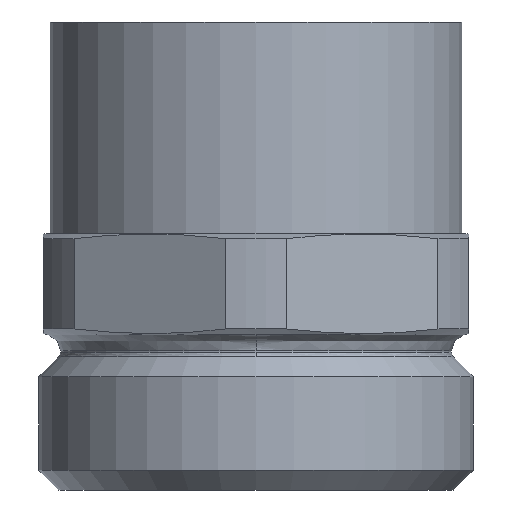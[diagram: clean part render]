
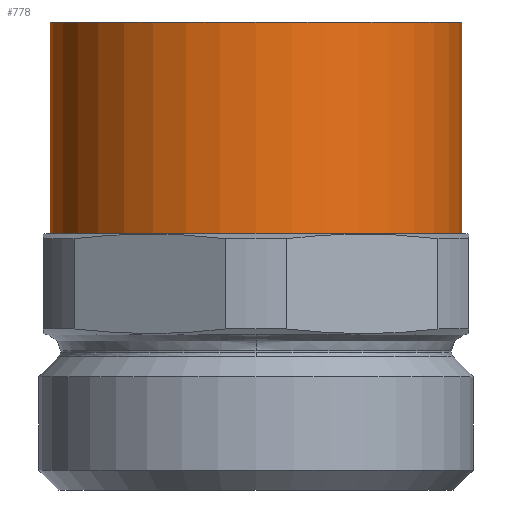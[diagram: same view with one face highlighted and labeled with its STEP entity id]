
A CAD part, left-side view. The second image highlights one B-rep face of the part: STEP entity #778.
In plain terms, the highlighted cylindrical face has radius 12.525 mm (diameter 25.05 mm), a partial arc.
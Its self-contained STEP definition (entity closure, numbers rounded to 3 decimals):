
#737=CARTESIAN_POINT('',(0.0,0.0,-10.192));
#738=DIRECTION('',(0.0,0.0,-1.0));
#739=DIRECTION('',(0.0,1.0,0.0));
#740=AXIS2_PLACEMENT_3D('',#737,#738,#739);
#741=CYLINDRICAL_SURFACE('',#740,12.525);
#742=CARTESIAN_POINT('',(0.0,12.525,-16.635));
#743=VERTEX_POINT('',#742);
#744=CARTESIAN_POINT('',(0.0,12.525,-3.75));
#745=VERTEX_POINT('',#744);
#746=CARTESIAN_POINT('',(0.0,12.525,-16.635));
#747=DIRECTION('',(0.0,0.0,1.0));
#748=VECTOR('',#747,12.885);
#749=LINE('',#746,#748);
#750=EDGE_CURVE('',#743,#745,#749,.T.);
#751=ORIENTED_EDGE('',*,*,#750,.F.);
#752=CARTESIAN_POINT('',(0.,-12.525,-16.635));
#753=VERTEX_POINT('',#752);
#754=CARTESIAN_POINT('',(0.0,0.0,-16.635));
#755=DIRECTION('',(0.0,0.0,-1.0));
#756=DIRECTION('',(0.0,1.0,0.0));
#757=AXIS2_PLACEMENT_3D('',#754,#755,#756);
#758=CIRCLE('',#757,12.525);
#759=EDGE_CURVE('',#753,#743,#758,.T.);
#760=ORIENTED_EDGE('',*,*,#759,.F.);
#761=CARTESIAN_POINT('',(0.,-12.525,-3.75));
#762=VERTEX_POINT('',#761);
#763=CARTESIAN_POINT('',(0.,-12.525,-16.635));
#764=DIRECTION('',(0.0,0.0,1.0));
#765=VECTOR('',#764,12.885);
#766=LINE('',#763,#765);
#767=EDGE_CURVE('',#753,#762,#766,.T.);
#768=ORIENTED_EDGE('',*,*,#767,.T.);
#769=CARTESIAN_POINT('',(0.0,0.0,-3.75));
#770=DIRECTION('',(0.0,0.0,-1.0));
#771=DIRECTION('',(0.0,1.0,0.0));
#772=AXIS2_PLACEMENT_3D('',#769,#770,#771);
#773=CIRCLE('',#772,12.525);
#774=EDGE_CURVE('',#762,#745,#773,.T.);
#775=ORIENTED_EDGE('',*,*,#774,.T.);
#776=EDGE_LOOP('',(#751,#760,#768,#775));
#777=FACE_OUTER_BOUND('',#776,.T.);
#778=ADVANCED_FACE('',(#777),#741,.T.);
